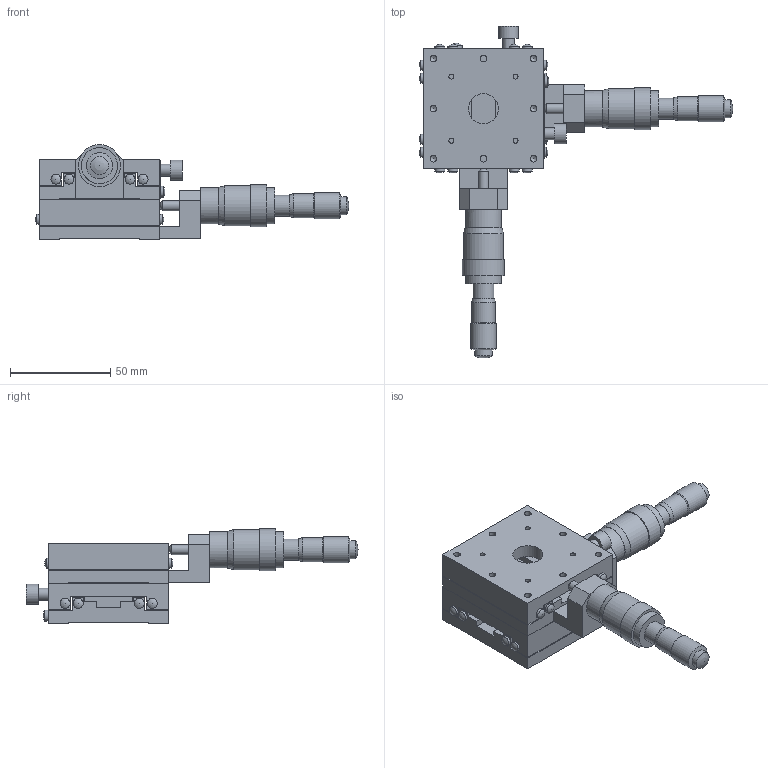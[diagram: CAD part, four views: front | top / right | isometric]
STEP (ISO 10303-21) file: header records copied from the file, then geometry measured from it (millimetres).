
FILE_DESCRIPTION( ( 'STEP AP214' ), '1' );
FILE_NAME( 'C:/Project/3D_B21-60B-配布-070508.stp', '2007-05-08T10:42:45', ( ' ' ), ( ' ' ), 'XStep 1.0', ' ', ' ' );
FILE_SCHEMA( ( 'automotive_design' ) );
Length unit declared in the file: millimetre
Products named in the file (6): 1; 2; 3; 4; 5; 6
Bounding box: 156.6 x 165.8 x 47.3 mm (x, y, z)
Volume: 168096.8 mm3; surface area: 67474.4 mm2
Topology: 6 solids, 6 shells, 314 faces, 839 edges, 561 vertices
Faces by surface type: plane 144, cylinder 126, sphere 24, cone 20
Full cylindrical faces by diameter (mm): 2.5 x16, 3 x2, 3.3 x32, 4.5 x8, 5 x20, 5.6 x4, 6 x2, 8 x8, 9 x2, 10 x2, 10.5 x4, 12 x2, 13 x2, 15 x2, 18 x4, 20 x2, 21 x2
Entity records: 10675 total; most frequent: DIRECTION 1432, CARTESIAN_POINT 1328, ORIENTED_EDGE 1116, EDGE_CURVE 558, AXIS2_PLACEMENT_3D 554, EDGE_LOOP 548, VERTEX_POINT 450, FACE_OUTER_BOUND 428
